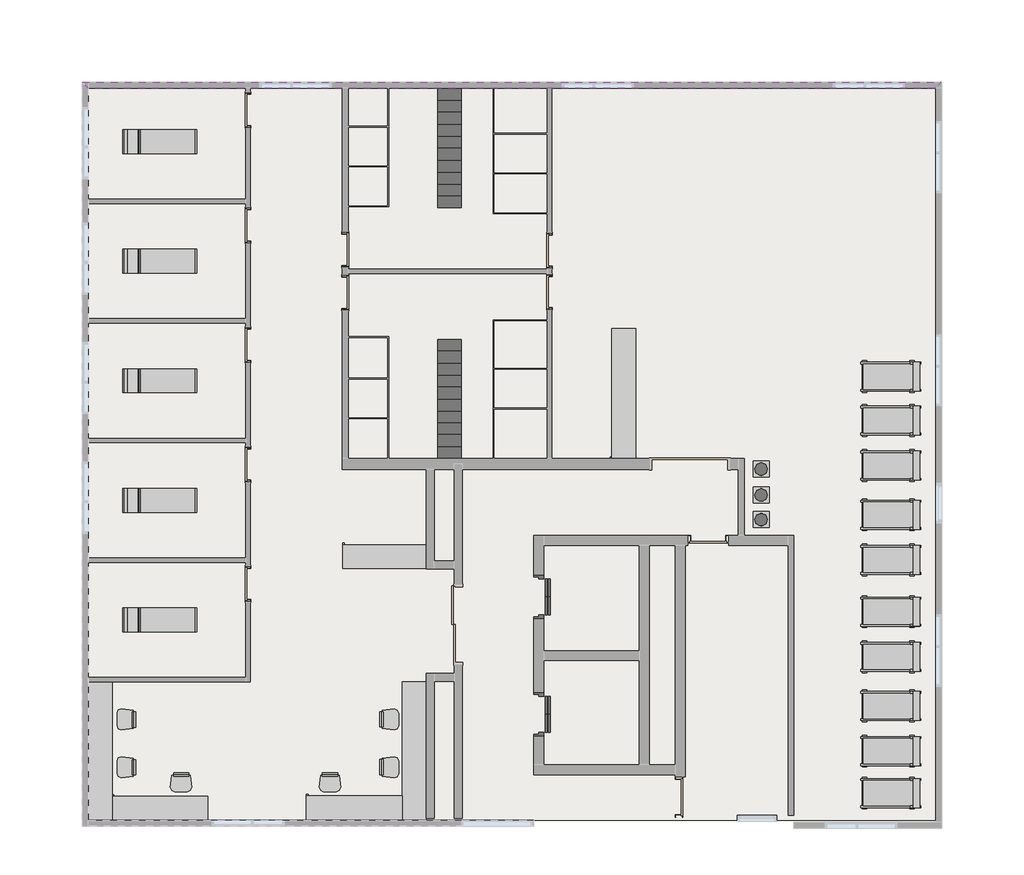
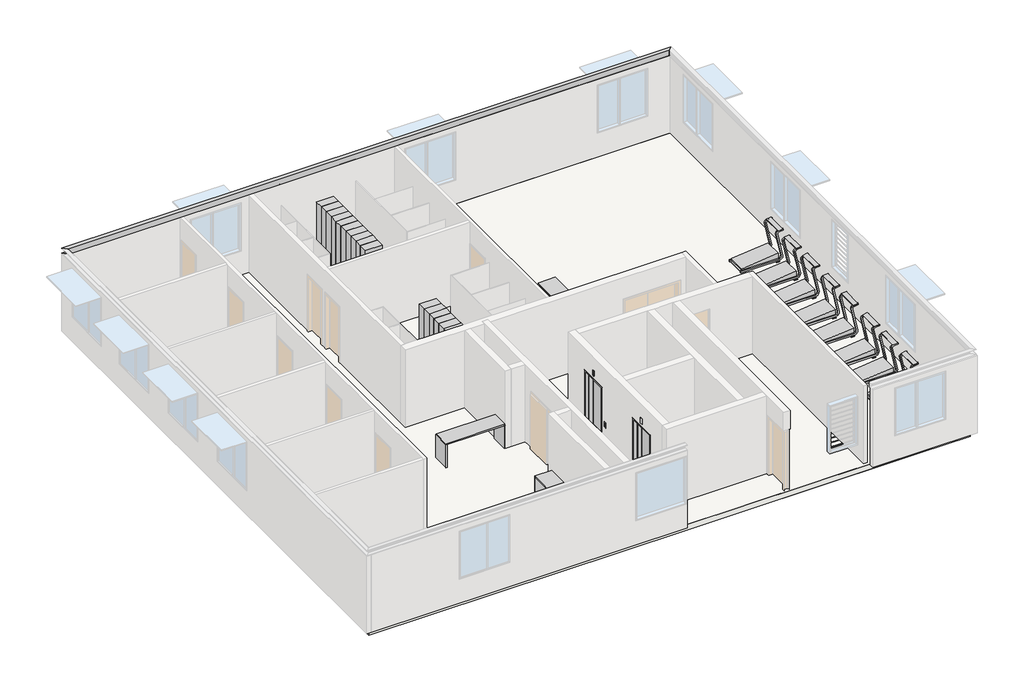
# One storey, part 3 of 3: 36 proxies, 17 furniture elements, 2 slabs.
"""IFC4 building model written with IfcOpenShell, lengths in millimetres."""

from ifc_helpers import new_model, si_unit, frame, origin, place, context, project, spatial, polyline, ellipse_curve, outline, extrude, faceted_brep, transform, mapped, element, save
from ifc_brep_helpers import plane_surface, revolved_surface, advanced_brep
from components import locker_4_tier_4ed8d849, lift_single_entry_gen_type1_208d8e88, treadmill_treadmill_electric_2e12c68f, water_dispenser_water_dispenser_c049955f, furniture_600_deep_no_overhang_9da0da39, furniture_600_deep_no_overhang_9007ff81, furniture_600_deep_no_overhang_fc6b35c9, furniture_600_deep_no_overhang_a952605c, chair_desk_desk_chair_ccc35c8f, examination_couch_electric_examination_couch_mobile_2269dcac

model = new_model("IFC4")

# Units and contexts
model_context = context("Model", 3, world=origin())
ifc_project = project(units=[si_unit("LENGTHUNIT", "METRE", prefix="MILLI")], contexts=[model_context])

# Site, building, storey
site = spatial("IfcSite", under=ifc_project)
building = spatial("IfcBuilding", under=site)
storey = spatial("IfcBuildingStorey", under=building, Name="6階", Elevation=45400.0)

# Proxies
placement = place(None, origin())
element("IfcBuildingElementProxy", 1, Name="Slab Edge_PFC'", ObjectType="Slab Edge_PFC'", at=placement, inside=storey, context=model_context, shape_type="AdvancedBrep", body=[
    advanced_brep(
    [(23758.6171203, 18560.0, 48500.0), (23758.6171203, 18560.0, 48300.0), (23908.6171203, 18710.0, 48300.0), (23908.6171203, 18710.0, 48312.0), (23776.6171203, 18578.0, 48312.0), (23764.6171203, 18566.0, 48324.0), (23764.6171203, 18566.0, 48476.0), (23776.6171203, 18578.0, 48488.0), (23908.6171203, 18710.0, 48488.0), (23908.6171203, 18710.0, 48500.0), (2519.6057353, 18560.0, 48500.0), (2369.6057353, 18710.0, 48500.0), (2369.6057353, 18710.0, 48488.0), (2501.6057353, 18578.0, 48488.0), (2513.6057353, 18566.0, 48476.0), (2513.6057353, 18566.0, 48324.0), (2501.6057353, 18578.0, 48312.0), (2369.6057353, 18710.0, 48312.0), (2369.6057353, 18710.0, 48300.0), (2519.6057353, 18560.0, 48300.0)],
    [
        (0, 1),
        (1, 2),
        (2, 3),
        (3, 4),
        (4, 5, ellipse_curve(frame((23776.6171203, 18578.0, 48324.0), z_axis=(-0.7071067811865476, 0.7071067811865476, 0.0), x_axis=(-0.7071067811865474, -0.7071067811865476, 0.0)), 16.9705627, 12.0)),
        (5, 6),
        (6, 7, ellipse_curve(frame((23776.6171203, 18578.0, 48476.0), z_axis=(-0.7071067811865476, 0.7071067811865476, 0.0), x_axis=(-0.7071067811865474, -0.7071067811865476, 0.0)), 16.9705627, 12.0)),
        (7, 8),
        (8, 9),
        (9, 0),
        (10, 11),
        (11, 12),
        (12, 13),
        (13, 14, ellipse_curve(frame((2501.6057353, 18578.0, 48476.0), z_axis=(0.7071067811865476, 0.7071067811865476, 0.0), x_axis=(-0.7071067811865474, 0.7071067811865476, 0.0)), 16.9705627, 12.0)),
        (14, 15),
        (15, 16, ellipse_curve(frame((2501.6057353, 18578.0, 48324.0), z_axis=(0.7071067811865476, 0.7071067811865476, 0.0), x_axis=(-0.7071067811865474, 0.7071067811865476, 0.0)), 16.9705627, 12.0)),
        (16, 17),
        (17, 18),
        (18, 19),
        (19, 10),
        (0, 10),
        (19, 1),
        (18, 2),
        (17, 3),
        (16, 4),
        (15, 5),
        (14, 6),
        (13, 7),
        (12, 8),
        (11, 9),
    ],
    [
        plane_surface(frame((23758.6171203, 18560.0, 48500.0), z_axis=(0.7071067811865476, -0.7071067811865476, 0.0), x_axis=(0.7071067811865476, 0.7071067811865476, 0.0))),
        plane_surface(frame((2519.6057353, 18560.0, 48500.0), z_axis=(-0.7071067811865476, -0.7071067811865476, 0.0), x_axis=(0.7071067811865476, -0.7071067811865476, 0.0))),
        plane_surface(frame((23758.6171203, 18560.0, 48500.0), z_axis=(0.0, -1.0, 0.0), x_axis=(-1.0, 0.0, 0.0))),
        plane_surface(frame((23758.6171203, 18560.0, 48300.0), z_axis=(0.0, 0.0, -1.0), x_axis=(-1.0, 0.0, 0.0))),
        plane_surface(frame((23908.6171203, 18710.0, 48300.0), z_axis=(0.0, 1.0, 0.0), x_axis=(-1.0, 0.0, 0.0))),
        plane_surface(frame((23908.6171203, 18710.0, 48312.0), z_axis=(0.0, 0.0, 1.0), x_axis=(-1.0, 0.0, 0.0))),
        revolved_surface(polyline([(2489.6057353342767, 18590.0, 48324.0), (23788.617120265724, 18590.0, 48324.0)]), (23758.6171203, 18578.0, 48324.0), (-1.0, 0.0, 0.0)),
        plane_surface(frame((23764.6171203, 18566.0, 48324.0), z_axis=(0.0, 1.0, 0.0), x_axis=(-1.0, 0.0, 0.0))),
        revolved_surface(polyline([(2489.6057353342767, 18590.0, 48476.0), (23788.617120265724, 18590.0, 48476.0)]), (23758.6171203, 18578.0, 48476.0), (-1.0, 0.0, 0.0)),
        plane_surface(frame((23776.6171203, 18578.0, 48488.0), z_axis=(0.0, 0.0, -1.0), x_axis=(-1.0, 0.0, 0.0))),
        plane_surface(frame((23908.6171203, 18710.0, 48488.0), z_axis=(0.0, 1.0, 0.0), x_axis=(-1.0, 0.0, 0.0))),
        plane_surface(frame((23908.6171203, 18710.0, 48500.0), z_axis=(0.0, 0.0, 1.0), x_axis=(-1.0, 0.0, 0.0))),
    ],
    [
        (0, [[1, 2, 3, 4, 5, 6, 7, 8, 9, 10]]),
        (1, [[11, 12, 13, 14, 15, 16, 17, 18, 19, 20]]),
        (2, [[-1, 21, -20, 22]]),
        (3, [[-2, -22, -19, 23]]),
        (4, [[-3, -23, -18, 24]]),
        (5, [[-4, -24, -17, 25]]),
        (6, [[-5, -25, -16, 26]]),
        (7, [[-6, -26, -15, 27]]),
        (8, [[-7, -27, -14, 28]]),
        (9, [[-8, -28, -13, 29]]),
        (10, [[-9, -29, -12, 30]]),
        (11, [[-10, -30, -11, -21]]),
    ],
),
])
locker_4_tier_shape = locker_4_tier_4ed8d849(model_context)
element("IfcBuildingElementProxy", 2, Name="LOCKER - VARIOUS : LOCKER - 4 TIER", ObjectType="LOCKER - VARIOUS : LOCKER - 4 TIER", at=placement, inside=storey, context=model_context, shape_type="MappedRepresentation", body=[
    mapped(locker_4_tier_shape, transform((11041.9254492, 18410.0, 45400.0), x_axis=(0.0, -1.0, 0.0), y_axis=(1.0, 0.0, 0.0), z_axis=(0.0, 0.0, 1.0))),
])
element("IfcBuildingElementProxy", 3, Name="LOCKER - VARIOUS : LOCKER - 4 TIER", ObjectType="LOCKER - VARIOUS : LOCKER - 4 TIER", at=placement, inside=storey, context=model_context, shape_type="MappedRepresentation", body=[
    mapped(locker_4_tier_shape, transform((11041.9254492, 18110.0, 45400.0), x_axis=(0.0, -1.0, 0.0), y_axis=(1.0, 0.0, 0.0), z_axis=(0.0, 0.0, 1.0))),
])
element("IfcBuildingElementProxy", 4, Name="LOCKER - VARIOUS : LOCKER - 4 TIER", ObjectType="LOCKER - VARIOUS : LOCKER - 4 TIER", at=placement, inside=storey, context=model_context, shape_type="MappedRepresentation", body=[
    mapped(locker_4_tier_shape, transform((11041.9254492, 17810.0, 45400.0), x_axis=(0.0, -1.0, 0.0), y_axis=(1.0, 0.0, 0.0), z_axis=(0.0, 0.0, 1.0))),
])
element("IfcBuildingElementProxy", 5, Name="LOCKER - VARIOUS : LOCKER - 4 TIER", ObjectType="LOCKER - VARIOUS : LOCKER - 4 TIER", at=placement, inside=storey, context=model_context, shape_type="MappedRepresentation", body=[
    mapped(locker_4_tier_shape, transform((11041.9254492, 17510.0, 45400.0), x_axis=(0.0, -1.0, 0.0), y_axis=(1.0, 0.0, 0.0), z_axis=(0.0, 0.0, 1.0))),
])
element("IfcBuildingElementProxy", 6, Name="LOCKER - VARIOUS : LOCKER - 4 TIER", ObjectType="LOCKER - VARIOUS : LOCKER - 4 TIER", at=placement, inside=storey, context=model_context, shape_type="MappedRepresentation", body=[
    mapped(locker_4_tier_shape, transform((11041.9254492, 17210.0, 45400.0), x_axis=(0.0, -1.0, 0.0), y_axis=(1.0, 0.0, 0.0), z_axis=(0.0, 0.0, 1.0))),
])
element("IfcBuildingElementProxy", 7, Name="LOCKER - VARIOUS : LOCKER - 4 TIER", ObjectType="LOCKER - VARIOUS : LOCKER - 4 TIER", at=placement, inside=storey, context=model_context, shape_type="MappedRepresentation", body=[
    mapped(locker_4_tier_shape, transform((11041.9254492, 16910.0, 45400.0), x_axis=(0.0, -1.0, 0.0), y_axis=(1.0, 0.0, 0.0), z_axis=(0.0, 0.0, 1.0))),
])
element("IfcBuildingElementProxy", 8, Name="LOCKER - VARIOUS : LOCKER - 4 TIER", ObjectType="LOCKER - VARIOUS : LOCKER - 4 TIER", at=placement, inside=storey, context=model_context, shape_type="MappedRepresentation", body=[
    mapped(locker_4_tier_shape, transform((11041.9254492, 16610.0, 45400.0), x_axis=(0.0, -1.0, 0.0), y_axis=(1.0, 0.0, 0.0), z_axis=(0.0, 0.0, 1.0))),
])
element("IfcBuildingElementProxy", 9, Name="LOCKER - VARIOUS : LOCKER - 4 TIER", ObjectType="LOCKER - VARIOUS : LOCKER - 4 TIER", at=placement, inside=storey, context=model_context, shape_type="MappedRepresentation", body=[
    mapped(locker_4_tier_shape, transform((11041.9254492, 16310.0, 45400.0), x_axis=(0.0, -1.0, 0.0), y_axis=(1.0, 0.0, 0.0), z_axis=(0.0, 0.0, 1.0))),
])
element("IfcBuildingElementProxy", 10, Name="LOCKER - VARIOUS : LOCKER - 4 TIER", ObjectType="LOCKER - VARIOUS : LOCKER - 4 TIER", at=placement, inside=storey, context=model_context, shape_type="MappedRepresentation", body=[
    mapped(locker_4_tier_shape, transform((11041.9254492, 16010.0, 45400.0), x_axis=(0.0, -1.0, 0.0), y_axis=(1.0, 0.0, 0.0), z_axis=(0.0, 0.0, 1.0))),
])
element("IfcBuildingElementProxy", 11, Name="LOCKER - VARIOUS : LOCKER - 4 TIER", ObjectType="LOCKER - VARIOUS : LOCKER - 4 TIER", at=placement, inside=storey, context=model_context, shape_type="MappedRepresentation", body=[
    mapped(locker_4_tier_shape, transform((11041.9254492, 15710.0, 45400.0), x_axis=(0.0, -1.0, 0.0), y_axis=(1.0, 0.0, 0.0), z_axis=(0.0, 0.0, 1.0))),
])
element("IfcBuildingElementProxy", 12, Name="LOCKER - VARIOUS : LOCKER - 4 TIER", ObjectType="LOCKER - VARIOUS : LOCKER - 4 TIER", at=placement, inside=storey, context=model_context, shape_type="MappedRepresentation", body=[
    mapped(locker_4_tier_shape, transform((11041.9254492, 12110.0, 45400.0), x_axis=(0.0, -1.0, 0.0), y_axis=(1.0, 0.0, 0.0), z_axis=(0.0, 0.0, 1.0))),
])
element("IfcBuildingElementProxy", 13, Name="LOCKER - VARIOUS : LOCKER - 4 TIER", ObjectType="LOCKER - VARIOUS : LOCKER - 4 TIER", at=placement, inside=storey, context=model_context, shape_type="MappedRepresentation", body=[
    mapped(locker_4_tier_shape, transform((11041.9254492, 11810.0, 45400.0), x_axis=(0.0, -1.0, 0.0), y_axis=(1.0, 0.0, 0.0), z_axis=(0.0, 0.0, 1.0))),
])
element("IfcBuildingElementProxy", 14, Name="LOCKER - VARIOUS : LOCKER - 4 TIER", ObjectType="LOCKER - VARIOUS : LOCKER - 4 TIER", at=placement, inside=storey, context=model_context, shape_type="MappedRepresentation", body=[
    mapped(locker_4_tier_shape, transform((11041.9254492, 11510.0, 45400.0), x_axis=(0.0, -1.0, 0.0), y_axis=(1.0, 0.0, 0.0), z_axis=(0.0, 0.0, 1.0))),
])
element("IfcBuildingElementProxy", 15, Name="LOCKER - VARIOUS : LOCKER - 4 TIER", ObjectType="LOCKER - VARIOUS : LOCKER - 4 TIER", at=placement, inside=storey, context=model_context, shape_type="MappedRepresentation", body=[
    mapped(locker_4_tier_shape, transform((11041.9254492, 11210.0, 45400.0), x_axis=(0.0, -1.0, 0.0), y_axis=(1.0, 0.0, 0.0), z_axis=(0.0, 0.0, 1.0))),
])
element("IfcBuildingElementProxy", 16, Name="LOCKER - VARIOUS : LOCKER - 4 TIER", ObjectType="LOCKER - VARIOUS : LOCKER - 4 TIER", at=placement, inside=storey, context=model_context, shape_type="MappedRepresentation", body=[
    mapped(locker_4_tier_shape, transform((11041.9254492, 10910.0, 45400.0), x_axis=(0.0, -1.0, 0.0), y_axis=(1.0, 0.0, 0.0), z_axis=(0.0, 0.0, 1.0))),
])
element("IfcBuildingElementProxy", 17, Name="LOCKER - VARIOUS : LOCKER - 4 TIER", ObjectType="LOCKER - VARIOUS : LOCKER - 4 TIER", at=placement, inside=storey, context=model_context, shape_type="MappedRepresentation", body=[
    mapped(locker_4_tier_shape, transform((11041.9254492, 10616.2680774, 45400.0), x_axis=(0.0, -1.0, 0.0), y_axis=(1.0, 0.0, 0.0), z_axis=(0.0, 0.0, 1.0))),
])
element("IfcBuildingElementProxy", 18, Name="LOCKER - VARIOUS : LOCKER - 4 TIER", ObjectType="LOCKER - VARIOUS : LOCKER - 4 TIER", at=placement, inside=storey, context=model_context, shape_type="MappedRepresentation", body=[
    mapped(locker_4_tier_shape, transform((11041.9254492, 10316.2680774, 45400.0), x_axis=(0.0, -1.0, 0.0), y_axis=(1.0, 0.0, 0.0), z_axis=(0.0, 0.0, 1.0))),
])
element("IfcBuildingElementProxy", 19, Name="LOCKER - VARIOUS : LOCKER - 4 TIER", ObjectType="LOCKER - VARIOUS : LOCKER - 4 TIER", at=placement, inside=storey, context=model_context, shape_type="MappedRepresentation", body=[
    mapped(locker_4_tier_shape, transform((11041.9254492, 10016.2680774, 45400.0), x_axis=(0.0, -1.0, 0.0), y_axis=(1.0, 0.0, 0.0), z_axis=(0.0, 0.0, 1.0))),
])
element("IfcBuildingElementProxy", 20, Name="LOCKER - VARIOUS : LOCKER - 4 TIER", ObjectType="LOCKER - VARIOUS : LOCKER - 4 TIER", at=placement, inside=storey, context=model_context, shape_type="MappedRepresentation", body=[
    mapped(locker_4_tier_shape, transform((11041.9254492, 9716.2680774, 45400.0), x_axis=(0.0, -1.0, 0.0), y_axis=(1.0, 0.0, 0.0), z_axis=(0.0, 0.0, 1.0))),
])
element("IfcBuildingElementProxy", 21, Name="LOCKER - VARIOUS : LOCKER - 4 TIER", ObjectType="LOCKER - VARIOUS : LOCKER - 4 TIER", at=placement, inside=storey, context=model_context, shape_type="MappedRepresentation", body=[
    mapped(locker_4_tier_shape, transform((11041.9254492, 9416.2680774, 45400.0), x_axis=(0.0, -1.0, 0.0), y_axis=(1.0, 0.0, 0.0), z_axis=(0.0, 0.0, 1.0))),
])
lift_single_entry_gen_type1_shape = lift_single_entry_gen_type1_208d8e88(model_context)
element("IfcBuildingElementProxy", 22, Name="Lift_Single Entry_GEN : Type1", ObjectType="Lift_Single Entry_GEN : Type1", at=placement, inside=storey, context=model_context, shape_type="MappedRepresentation", body=[
    mapped(lift_single_entry_gen_type1_shape, transform((13819.6062665, 5591.0857154, 45400.0), x_axis=(0.0, 1.0, 0.0), y_axis=(-1.0, 0.0, 0.0), z_axis=(0.0, 0.0, 1.0))),
])
element("IfcBuildingElementProxy", 23, Name="Lift_Single Entry_GEN : Type1", ObjectType="Lift_Single Entry_GEN : Type1", at=placement, inside=storey, context=model_context, shape_type="MappedRepresentation", body=[
    mapped(lift_single_entry_gen_type1_shape, transform((13819.6062665, 2641.0857154, 45400.0), x_axis=(0.0, 1.0, 0.0), y_axis=(-1.0, 0.0, 0.0), z_axis=(0.0, 0.0, 1.0))),
])
treadmill_treadmill_electric_shape = treadmill_treadmill_electric_2e12c68f(model_context)
element("IfcBuildingElementProxy", 24, Name="TREADMILL : TREADMILL - ELECTRIC", ObjectType="TREADMILL : TREADMILL - ELECTRIC", at=placement, inside=storey, context=model_context, shape_type="MappedRepresentation", body=[
    mapped(treadmill_treadmill_electric_shape, transform((22896.1062665, 1925.0, 45400.0), x_axis=(0.0, 1.0, 0.0), y_axis=(-1.0, 0.0, 0.0), z_axis=(0.0, 0.0, 1.0))),
])
element("IfcBuildingElementProxy", 25, Name="TREADMILL : TREADMILL - ELECTRIC", ObjectType="TREADMILL : TREADMILL - ELECTRIC", at=placement, inside=storey, context=model_context, shape_type="MappedRepresentation", body=[
    mapped(treadmill_treadmill_electric_shape, transform((22896.1062665, 3057.7799147, 45400.0), x_axis=(0.0, 1.0, 0.0), y_axis=(-1.0, 0.0, 0.0), z_axis=(0.0, 0.0, 1.0))),
])
element("IfcBuildingElementProxy", 26, Name="TREADMILL : TREADMILL - ELECTRIC", ObjectType="TREADMILL : TREADMILL - ELECTRIC", at=placement, inside=storey, context=model_context, shape_type="MappedRepresentation", body=[
    mapped(treadmill_treadmill_electric_shape, transform((22896.1062665, 4292.525793, 45400.0), x_axis=(0.0, 1.0, 0.0), y_axis=(-1.0, 0.0, 0.0), z_axis=(0.0, 0.0, 1.0))),
])
element("IfcBuildingElementProxy", 27, Name="TREADMILL : TREADMILL - ELECTRIC", ObjectType="TREADMILL : TREADMILL - ELECTRIC", at=placement, inside=storey, context=model_context, shape_type="MappedRepresentation", body=[
    mapped(treadmill_treadmill_electric_shape, transform((22896.1062665, 5425.3057077, 45400.0), x_axis=(0.0, 1.0, 0.0), y_axis=(-1.0, 0.0, 0.0), z_axis=(0.0, 0.0, 1.0))),
])
element("IfcBuildingElementProxy", 28, Name="TREADMILL : TREADMILL - ELECTRIC", ObjectType="TREADMILL : TREADMILL - ELECTRIC", at=placement, inside=storey, context=model_context, shape_type="MappedRepresentation", body=[
    mapped(treadmill_treadmill_electric_shape, transform((22896.1062665, 6725.0, 45400.0), x_axis=(0.0, 1.0, 0.0), y_axis=(-1.0, 0.0, 0.0), z_axis=(0.0, 0.0, 1.0))),
])
element("IfcBuildingElementProxy", 29, Name="TREADMILL : TREADMILL - ELECTRIC", ObjectType="TREADMILL : TREADMILL - ELECTRIC", at=placement, inside=storey, context=model_context, shape_type="MappedRepresentation", body=[
    mapped(treadmill_treadmill_electric_shape, transform((22896.1062665, 7857.7799147, 45400.0), x_axis=(0.0, 1.0, 0.0), y_axis=(-1.0, 0.0, 0.0), z_axis=(0.0, 0.0, 1.0))),
])
element("IfcBuildingElementProxy", 30, Name="TREADMILL : TREADMILL - ELECTRIC", ObjectType="TREADMILL : TREADMILL - ELECTRIC", at=placement, inside=storey, context=model_context, shape_type="MappedRepresentation", body=[
    mapped(treadmill_treadmill_electric_shape, transform((22896.1062665, 9092.525793, 45400.0), x_axis=(0.0, 1.0, 0.0), y_axis=(-1.0, 0.0, 0.0), z_axis=(0.0, 0.0, 1.0))),
])
element("IfcBuildingElementProxy", 31, Name="TREADMILL : TREADMILL - ELECTRIC", ObjectType="TREADMILL : TREADMILL - ELECTRIC", at=placement, inside=storey, context=model_context, shape_type="MappedRepresentation", body=[
    mapped(treadmill_treadmill_electric_shape, transform((22896.1062665, 10225.3057077, 45400.0), x_axis=(0.0, 1.0, 0.0), y_axis=(-1.0, 0.0, 0.0), z_axis=(0.0, 0.0, 1.0))),
])
element("IfcBuildingElementProxy", 32, Name="TREADMILL : TREADMILL - ELECTRIC", ObjectType="TREADMILL : TREADMILL - ELECTRIC", at=placement, inside=storey, context=model_context, shape_type="MappedRepresentation", body=[
    mapped(treadmill_treadmill_electric_shape, transform((22896.1062665, 871.8714167, 45400.0), x_axis=(0.0, 1.0, 0.0), y_axis=(-1.0, 0.0, 0.0), z_axis=(0.0, 0.0, 1.0))),
])
element("IfcBuildingElementProxy", 33, Name="TREADMILL : TREADMILL - ELECTRIC", ObjectType="TREADMILL : TREADMILL - ELECTRIC", at=placement, inside=storey, context=model_context, shape_type="MappedRepresentation", body=[
    mapped(treadmill_treadmill_electric_shape, transform((22896.1062665, 11325.3057077, 45400.0), x_axis=(0.0, 1.0, 0.0), y_axis=(-1.0, 0.0, 0.0), z_axis=(0.0, 0.0, 1.0))),
])
water_dispenser_water_dispenser_shape = water_dispenser_water_dispenser_c049955f(model_context)
element("IfcBuildingElementProxy", 34, Name="WATER DISPENSER : WATER DISPENSER", ObjectType="WATER DISPENSER : WATER DISPENSER", at=placement, inside=storey, context=model_context, shape_type="MappedRepresentation", body=[
    mapped(water_dispenser_water_dispenser_shape, transform((19396.1062665, 7735.0, 45400.0), x_axis=(1.0, 0.0, 0.0), y_axis=(0.0, 1.0, 0.0), z_axis=(0.0, 0.0, 1.0))),
])
element("IfcBuildingElementProxy", 35, Name="WATER DISPENSER : WATER DISPENSER", ObjectType="WATER DISPENSER : WATER DISPENSER", at=placement, inside=storey, context=model_context, shape_type="MappedRepresentation", body=[
    mapped(water_dispenser_water_dispenser_shape, transform((19396.1062665, 8356.4528301, 45400.0), x_axis=(1.0, 0.0, 0.0), y_axis=(0.0, 1.0, 0.0), z_axis=(0.0, 0.0, 1.0))),
])
element("IfcBuildingElementProxy", 36, Name="WATER DISPENSER : WATER DISPENSER", ObjectType="WATER DISPENSER : WATER DISPENSER", at=placement, inside=storey, context=model_context, shape_type="MappedRepresentation", body=[
    mapped(water_dispenser_water_dispenser_shape, transform((19396.1062665, 9004.128552, 45400.0), x_axis=(1.0, 0.0, 0.0), y_axis=(0.0, 1.0, 0.0), z_axis=(0.0, 0.0, 1.0))),
])

# Furniture
furniture_600_deep_no_overhang_shape = furniture_600_deep_no_overhang_9da0da39(model_context)
element("IfcFurniture", 37, ObjectType="Benchtop_Optional Hole_I Shaped_CAS : 600 Deep_No Overhang", at=placement, inside=storey, context=model_context, shape_type="MappedRepresentation", body=[
    mapped(furniture_600_deep_no_overhang_shape, transform((4274.9054088, 789.0898177, 45400.0), x_axis=(1.0, 0.0, 0.0), y_axis=(0.0, 1.0, 0.0), z_axis=(0.0, 0.0, 1.0))),
])
element("IfcFurniture", 38, ObjectType="Benchtop_Optional Hole_I Shaped_CAS : 600 Deep_No Overhang", at=placement, inside=storey, context=model_context, shape_type="MappedRepresentation", body=[
    mapped(furniture_600_deep_no_overhang_shape, transform((9144.9059401, 799.0898177, 45400.0), x_axis=(1.0, 0.0, 0.0), y_axis=(0.0, 1.0, 0.0), z_axis=(0.0, 0.0, 1.0))),
])
furniture_600_deep_no_overhang_2_shape = furniture_600_deep_no_overhang_9007ff81(model_context)
element("IfcFurniture", 39, ObjectType="Benchtop_Optional Hole_I Shaped_CAS : 600 Deep_No Overhang", at=placement, inside=storey, context=model_context, shape_type="MappedRepresentation", body=[
    mapped(furniture_600_deep_no_overhang_2_shape, transform((2519.6057353, 1344.3894912, 45400.0), x_axis=(0.0, 1.0, 0.0), y_axis=(-1.0, 0.0, 0.0), z_axis=(0.0, 0.0, 1.0))),
])
element("IfcFurniture", 40, ObjectType="Benchtop_Optional Hole_I Shaped_CAS : 600 Deep_No Overhang", at=placement, inside=storey, context=model_context, shape_type="MappedRepresentation", body=[
    mapped(furniture_600_deep_no_overhang_2_shape, transform((10394.6062665, 1344.3894912, 45400.0), x_axis=(0.0, 1.0, 0.0), y_axis=(-1.0, 0.0, 0.0), z_axis=(0.0, 0.0, 1.0))),
])
furniture_600_deep_no_overhang_3_shape = furniture_600_deep_no_overhang_fc6b35c9(model_context)
element("IfcFurniture", 41, ObjectType="Benchtop_Optional Hole_I Shaped_CAS : 600 Deep_No Overhang", at=placement, inside=storey, context=model_context, shape_type="MappedRepresentation", body=[
    mapped(furniture_600_deep_no_overhang_3_shape, transform((10056.1705949, 7105.0, 45400.0), x_axis=(1.0, 0.0, 0.0), y_axis=(0.0, 1.0, 0.0), z_axis=(0.0, 0.0, 1.0))),
])
furniture_600_deep_no_overhang_4_shape = furniture_600_deep_no_overhang_a952605c(model_context)
element("IfcFurniture", 42, ObjectType="Benchtop_Optional Hole_I Shaped_CAS : 600 Deep_No Overhang", at=placement, inside=storey, context=model_context, shape_type="MappedRepresentation", body=[
    mapped(furniture_600_deep_no_overhang_4_shape, transform((15649.6062665, 10421.567751, 45400.0), x_axis=(0.0, 1.0, 0.0), y_axis=(-1.0, 0.0, 0.0), z_axis=(0.0, 0.0, 1.0))),
])
chair_desk_desk_chair_shape = chair_desk_desk_chair_ccc35c8f(model_context)
element("IfcFurniture", 43, ObjectType="Chair-Desk : Desk Chair", at=placement, inside=storey, context=model_context, shape_type="MappedRepresentation", body=[
    mapped(chair_desk_desk_chair_shape, transform((3644.6057353, 2720.0, 45400.0), x_axis=(0.0, 1.0000000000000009, 0.0), y_axis=(-1.0000000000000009, 0.0, 0.0), z_axis=(0.0, 0.0, 1.0))),
])
element("IfcFurniture", 44, ObjectType="Chair-Desk : Desk Chair", at=placement, inside=storey, context=model_context, shape_type="MappedRepresentation", body=[
    mapped(chair_desk_desk_chair_shape, transform((3644.6057353, 1520.0, 45400.0), x_axis=(0.0, 1.0000000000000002, 0.0), y_axis=(-1.0000000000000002, 0.0, 0.0), z_axis=(0.0, 0.0, 1.0))),
])
element("IfcFurniture", 45, ObjectType="Chair-Desk : Desk Chair", at=placement, inside=storey, context=model_context, shape_type="MappedRepresentation", body=[
    mapped(chair_desk_desk_chair_shape, transform((4844.6057353, 1314.0898177, 45400.0), x_axis=(-1.0000000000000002, 0.0, 0.0), y_axis=(0.0, -1.0000000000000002, 0.0), z_axis=(0.0, 0.0, 1.0))),
])
element("IfcFurniture", 46, ObjectType="Chair-Desk : Desk Chair", at=placement, inside=storey, context=model_context, shape_type="MappedRepresentation", body=[
    mapped(chair_desk_desk_chair_shape, transform((8579.6057353, 1314.0898177, 45400.0), x_axis=(-1.0, 0.0, 0.0), y_axis=(0.0, -1.0, 0.0), z_axis=(0.0, 0.0, 1.0))),
])
element("IfcFurniture", 47, ObjectType="Chair-Desk : Desk Chair", at=placement, inside=storey, context=model_context, shape_type="MappedRepresentation", body=[
    mapped(chair_desk_desk_chair_shape, transform((9894.6062665, 1520.0, 45400.0), x_axis=(0.0, -1.0, 0.0), y_axis=(1.0, 0.0, 0.0), z_axis=(0.0, 0.0, 1.0))),
])
element("IfcFurniture", 48, ObjectType="Chair-Desk : Desk Chair", at=placement, inside=storey, context=model_context, shape_type="MappedRepresentation", body=[
    mapped(chair_desk_desk_chair_shape, transform((9894.6062665, 2720.0, 45400.0), x_axis=(0.0, -1.0, 0.0), y_axis=(1.0, 0.0, 0.0), z_axis=(0.0, 0.0, 1.0))),
])
examination_couch_electric_examination_couch_mobile_shape = examination_couch_electric_examination_couch_mobile_2269dcac(model_context)
element("IfcFurniture", 49, ObjectType="EXAMINATION COUCH - ELECTRIC : EXAMINATION COUCH - MOBILE", at=placement, inside=storey, context=model_context, shape_type="MappedRepresentation", body=[
    mapped(examination_couch_electric_examination_couch_mobile_shape, transform((3924.3300041, 5420.0, 45400.0), x_axis=(0.0, 1.0, 0.0), y_axis=(-1.0, 0.0, 0.0), z_axis=(0.0, 0.0, 1.0))),
])
element("IfcFurniture", 50, ObjectType="EXAMINATION COUCH - ELECTRIC : EXAMINATION COUCH - MOBILE", at=placement, inside=storey, context=model_context, shape_type="MappedRepresentation", body=[
    mapped(examination_couch_electric_examination_couch_mobile_shape, transform((3924.3300041, 8420.0, 45400.0), x_axis=(0.0, 1.0, 0.0), y_axis=(-1.0, 0.0, 0.0), z_axis=(0.0, 0.0, 1.0))),
])
element("IfcFurniture", 51, ObjectType="EXAMINATION COUCH - ELECTRIC : EXAMINATION COUCH - MOBILE", at=placement, inside=storey, context=model_context, shape_type="MappedRepresentation", body=[
    mapped(examination_couch_electric_examination_couch_mobile_shape, transform((3924.3300041, 11420.0, 45400.0), x_axis=(0.0, 1.0, 0.0), y_axis=(-1.0, 0.0, 0.0), z_axis=(0.0, 0.0, 1.0))),
])
element("IfcFurniture", 52, ObjectType="EXAMINATION COUCH - ELECTRIC : EXAMINATION COUCH - MOBILE", at=placement, inside=storey, context=model_context, shape_type="MappedRepresentation", body=[
    mapped(examination_couch_electric_examination_couch_mobile_shape, transform((3924.3300041, 14420.0, 45400.0), x_axis=(0.0, 1.0, 0.0), y_axis=(-1.0, 0.0, 0.0), z_axis=(0.0, 0.0, 1.0))),
])
element("IfcFurniture", 53, ObjectType="EXAMINATION COUCH - ELECTRIC : EXAMINATION COUCH - MOBILE", at=placement, inside=storey, context=model_context, shape_type="MappedRepresentation", body=[
    mapped(examination_couch_electric_examination_couch_mobile_shape, transform((3924.3300041, 17420.0, 45400.0), x_axis=(0.0, 1.0, 0.0), y_axis=(-1.0, 0.0, 0.0), z_axis=(0.0, 0.0, 1.0))),
])

# Slabs
element("IfcSlab", 54, ObjectType="Concept Floor_200mm", at=placement, inside=storey, context=model_context, shape_type="Brep", body=[
    faceted_brep([(2519.6057353, 18560.0, 45200.0), (23783.6171203, 18560.0, 45200.0), (23783.6171203, 189.0898177, 45200.0), (20219.6062665, 189.0898177, 45200.0), (13694.6062665, 189.0898177, 45200.0), (2519.6057353, 189.0898177, 45200.0), (2519.6057353, 18560.0, 45400.0), (2519.6057353, 189.0898177, 45400.0), (13694.6062665, 189.0898177, 45400.0), (20219.6062665, 189.0898177, 45400.0), (23783.6171203, 189.0898177, 45400.0), (23783.6171203, 18560.0, 45400.0)], [[[0, 1, 2, 3, 4, 5]], [[6, 7, 8, 9, 10, 11]], [[1, 0, 6, 11]], [[5, 4, 3, 2, 10, 9, 8, 7]], [[0, 5, 7, 6]], [[2, 1, 11, 10]]]),
])
element("IfcSlab", 55, ObjectType="Concept Floor_200mm", at=placement, inside=storey, context=model_context, shape_type="SweptSolid", body=[
    extrude(outline(polyline([(2519.6057353, 18560.0), (23758.6171203, 18560.0), (23758.6171203, 189.0898177), (2519.6057353, 189.0898177), (2519.6057353, 18560.0)])), frame((0.0, 0.0, 45200.0), z_axis=(0.0, 0.0, 1.0), x_axis=(1.0, 0.0, 0.0)), (0.0, 0.0, 1.0), 200.0),
])

save(model, "model.ifc")
